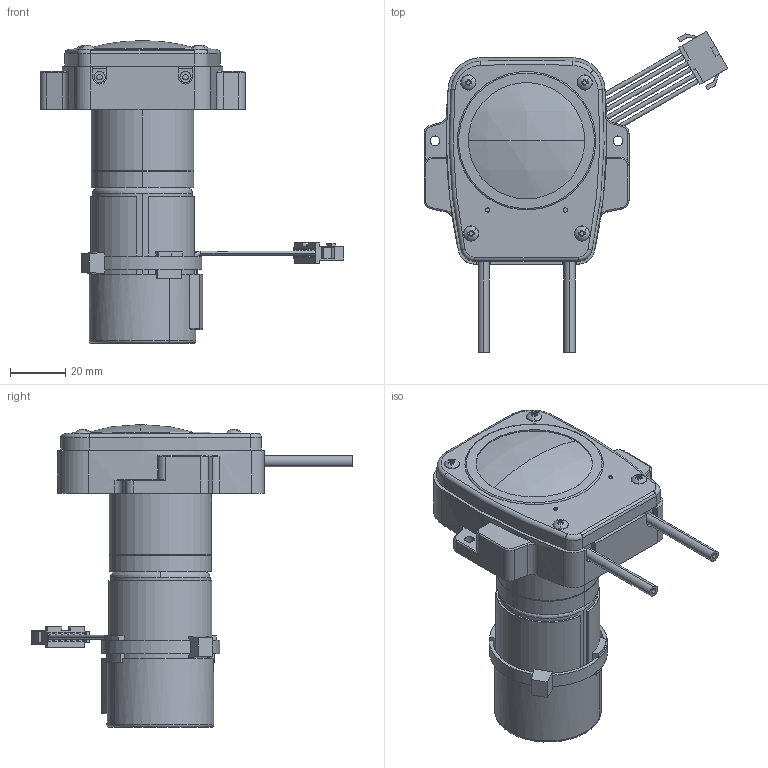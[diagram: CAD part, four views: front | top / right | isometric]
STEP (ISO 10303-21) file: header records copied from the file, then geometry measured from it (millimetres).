
FILE_DESCRIPTION (( 'STEP AP214' ), '1' );
FILE_NAME ('rp-m-enc.STEP', '2022-03-23T06:57:35', ( '' ), ( '' ), 'SwSTEP 2.0', 'SolidWorks 2021', '' );
FILE_SCHEMA (( 'AUTOMOTIVE_DESIGN' ));
Length unit declared in the file: millimetre
Products named in the file (15): モータ取付板_AR-BL16; ベース_AR-BA08A-1_forWEB; エンコーダリード線; 2x4tube_forWEB; カバー_AR-FU09-1; SMP-06-BC WIRE; MOTOR COVER; M2.6x10_トラスタッピンねじ_SUS; TP-3640F-HM-100; 軸受け_AR-JK09; WIRE CLAMPER; SMP-06V-BC; rp-m-enc; M3x8_P僞僀僩_儔儈儊僀僩; TP-3640B,C,E-HM-4乮尭懍斾丗36乣100乯S
Assembly tree (25 placements, depth 4):
  rp-m-enc
    ベース_AR-BA08A-1_forWEB
    軸受け_AR-JK09
    カバー_AR-FU09-1
    M2.6x10_トラスタッピンねじ_SUS  x4
    M3x8_P僞僀僩_儔儈儊僀僩  x4
    モータ取付板_AR-BL16
    TP-3640F-HM-100
      TP-3640B,C,E-HM-4乮尭懍斾丗36乣100乯S
      MOTOR COVER
      WIRE CLAMPER
      SMP-06-BC WIRE
        SMP-06V-BC
        エンコーダリード線  x6
    2x4tube_forWEB
Bounding box: 109.71 x 116.14 x 109.3 mm (x, y, z)
Volume: 170985 mm3; surface area: 64792.5 mm2
Topology: 24 solids, 29 shells, 992 faces, 2460 edges, 1591 vertices
Faces by surface type: cylinder 433, plane 431, torus 62, cone 38, sphere 26, bspline 2
Entity records: 23582 total; most frequent: DIRECTION 4215, CARTESIAN_POINT 4189, ORIENTED_EDGE 3720, EDGE_CURVE 1860, AXIS2_PLACEMENT_3D 1615, VERTEX_POINT 1207, LINE 985, VECTOR 985
